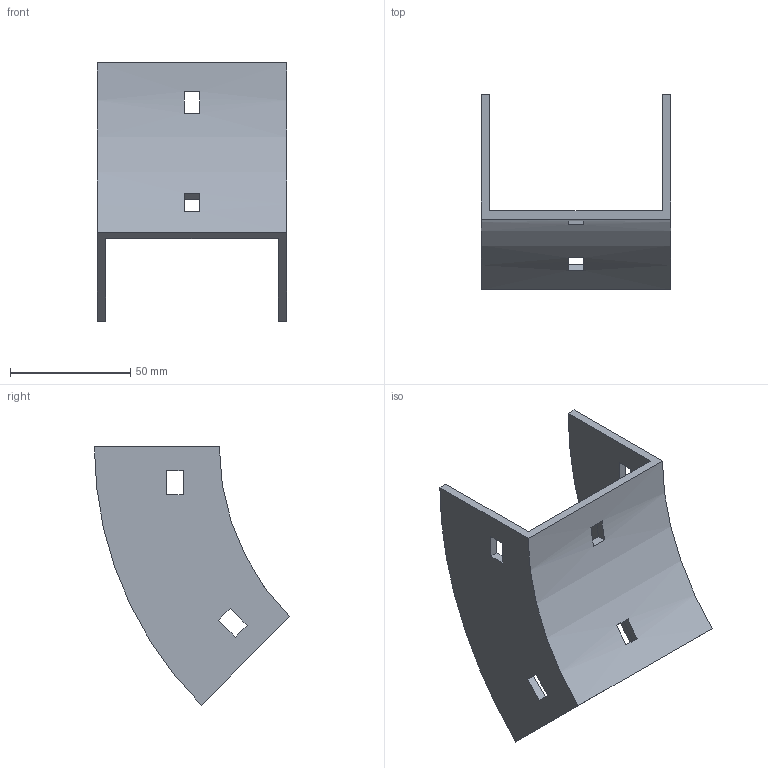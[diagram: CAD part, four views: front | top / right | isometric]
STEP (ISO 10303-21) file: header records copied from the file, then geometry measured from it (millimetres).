
FILE_DESCRIPTION (( 'STEP AP214' ), '1' );
FILE_NAME ('34B1B075.step', '2025-02-21T09:28:11', ( '' ), ( '' ), 'SwSTEP 2.0', 'SolidWorks 2023', '' );
FILE_SCHEMA (( 'AUTOMOTIVE_DESIGN' ));
Length unit declared in the file: millimetre
Products named in the file (1): 34B1B075
Bounding box: 79 x 81.29 x 107.48 mm (x, y, z)
Volume: 54764.8 mm3; surface area: 34048.2 mm2
Topology: 1 solids, 1 shells, 34 faces, 96 edges, 64 vertices
Faces by surface type: plane 30, cylinder 4
Entity records: 1143 total; most frequent: CARTESIAN_POINT 195, ORIENTED_EDGE 192, DIRECTION 182, EDGE_CURVE 96, VECTOR 80, LINE 80, VERTEX_POINT 64, AXIS2_PLACEMENT_3D 51
